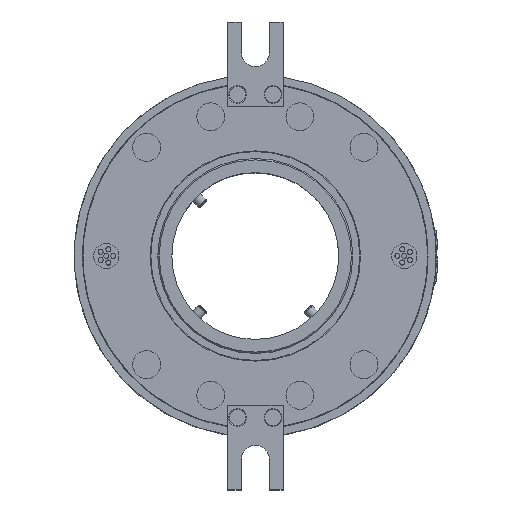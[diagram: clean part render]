
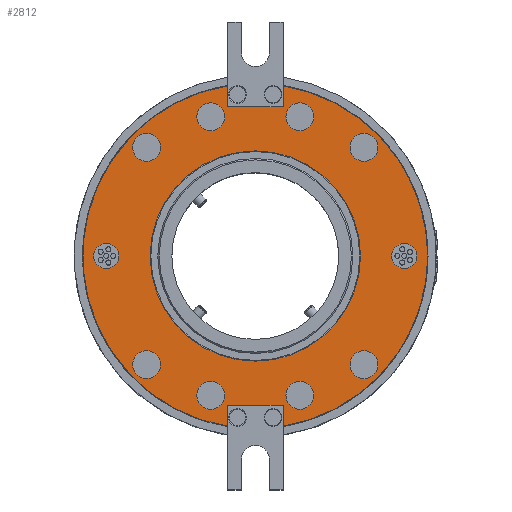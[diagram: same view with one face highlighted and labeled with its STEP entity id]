
A CAD part, top view. The second image highlights one B-rep face of the part: STEP entity #2812.
In plain terms, the highlighted planar face has unit normal (0, 0, 1).
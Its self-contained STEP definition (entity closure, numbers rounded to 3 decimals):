
#1454=LINE('',#19542,#1736);
#1455=LINE('',#19545,#1737);
#1456=LINE('',#19549,#1738);
#1457=LINE('',#19551,#1739);
#1458=LINE('',#19553,#1740);
#1459=LINE('',#19557,#1741);
#1736=VECTOR('',#17074,1.);
#1737=VECTOR('',#17075,1.);
#1738=VECTOR('',#17078,1.);
#1739=VECTOR('',#17079,1.);
#1740=VECTOR('',#17080,1.);
#1741=VECTOR('',#17083,1.);
#2471=PLANE('',#16321);
#2812=ADVANCED_FACE('',(#6041,#6042,#6043,#6044,#6045,#6046,#6047,#6048,
#6049,#6050,#6051,#6052),#2471,.T.);
#6041=FACE_BOUND('',#6353,.T.);
#6042=FACE_BOUND('',#6354,.T.);
#6043=FACE_BOUND('',#6355,.T.);
#6044=FACE_BOUND('',#6356,.T.);
#6045=FACE_BOUND('',#6357,.T.);
#6046=FACE_BOUND('',#6358,.T.);
#6047=FACE_BOUND('',#6359,.T.);
#6048=FACE_BOUND('',#6360,.T.);
#6049=FACE_BOUND('',#6361,.T.);
#6050=FACE_BOUND('',#6362,.T.);
#6051=FACE_BOUND('',#6363,.T.);
#6052=FACE_BOUND('',#6364,.T.);
#6353=EDGE_LOOP('',(#7474,#7475,#7476,#7477,#7478,#7479,#7480,#7481));
#6354=EDGE_LOOP('',(#7482));
#6355=EDGE_LOOP('',(#7483));
#6356=EDGE_LOOP('',(#7484));
#6357=EDGE_LOOP('',(#7485));
#6358=EDGE_LOOP('',(#7486));
#6359=EDGE_LOOP('',(#7487));
#6360=EDGE_LOOP('',(#7488));
#6361=EDGE_LOOP('',(#7489));
#6362=EDGE_LOOP('',(#7490));
#6363=EDGE_LOOP('',(#7491));
#6364=EDGE_LOOP('',(#7492));
#7474=ORIENTED_EDGE('',*,*,#13754,.T.);
#7475=ORIENTED_EDGE('',*,*,#13755,.T.);
#7476=ORIENTED_EDGE('',*,*,#13756,.F.);
#7477=ORIENTED_EDGE('',*,*,#13757,.T.);
#7478=ORIENTED_EDGE('',*,*,#13758,.T.);
#7479=ORIENTED_EDGE('',*,*,#13759,.T.);
#7480=ORIENTED_EDGE('',*,*,#13760,.F.);
#7481=ORIENTED_EDGE('',*,*,#13761,.T.);
#7482=ORIENTED_EDGE('',*,*,#13762,.T.);
#7483=ORIENTED_EDGE('',*,*,#13763,.T.);
#7484=ORIENTED_EDGE('',*,*,#13764,.T.);
#7485=ORIENTED_EDGE('',*,*,#13765,.T.);
#7486=ORIENTED_EDGE('',*,*,#13766,.T.);
#7487=ORIENTED_EDGE('',*,*,#13767,.T.);
#7488=ORIENTED_EDGE('',*,*,#13768,.T.);
#7489=ORIENTED_EDGE('',*,*,#13769,.T.);
#7490=ORIENTED_EDGE('',*,*,#13770,.T.);
#7491=ORIENTED_EDGE('',*,*,#13771,.T.);
#7492=ORIENTED_EDGE('',*,*,#13753,.T.);
#12152=VERTEX_POINT('',#19540);
#12153=VERTEX_POINT('',#19543);
#12154=VERTEX_POINT('',#19544);
#12155=VERTEX_POINT('',#19546);
#12156=VERTEX_POINT('',#19548);
#12157=VERTEX_POINT('',#19550);
#12158=VERTEX_POINT('',#19552);
#12159=VERTEX_POINT('',#19554);
#12160=VERTEX_POINT('',#19556);
#12161=VERTEX_POINT('',#19559);
#12162=VERTEX_POINT('',#19561);
#12163=VERTEX_POINT('',#19563);
#12164=VERTEX_POINT('',#19565);
#12165=VERTEX_POINT('',#19567);
#12166=VERTEX_POINT('',#19569);
#12167=VERTEX_POINT('',#19571);
#12168=VERTEX_POINT('',#19573);
#12169=VERTEX_POINT('',#19575);
#12170=VERTEX_POINT('',#19577);
#13753=EDGE_CURVE('',#12152,#12152,#16089,.T.);
#13754=EDGE_CURVE('',#12153,#12154,#1454,.T.);
#13755=EDGE_CURVE('',#12154,#12155,#1455,.T.);
#13756=EDGE_CURVE('',#12156,#12155,#16090,.T.);
#13757=EDGE_CURVE('',#12156,#12157,#1456,.T.);
#13758=EDGE_CURVE('',#12157,#12158,#1457,.T.);
#13759=EDGE_CURVE('',#12158,#12159,#1458,.T.);
#13760=EDGE_CURVE('',#12160,#12159,#16091,.T.);
#13761=EDGE_CURVE('',#12160,#12153,#1459,.T.);
#13762=EDGE_CURVE('',#12161,#12161,#16092,.T.);
#13763=EDGE_CURVE('',#12162,#12162,#16093,.T.);
#13764=EDGE_CURVE('',#12163,#12163,#16094,.T.);
#13765=EDGE_CURVE('',#12164,#12164,#16095,.T.);
#13766=EDGE_CURVE('',#12165,#12165,#16096,.T.);
#13767=EDGE_CURVE('',#12166,#12166,#16097,.T.);
#13768=EDGE_CURVE('',#12167,#12167,#16098,.T.);
#13769=EDGE_CURVE('',#12168,#12168,#16099,.T.);
#13770=EDGE_CURVE('',#12169,#12169,#16100,.T.);
#13771=EDGE_CURVE('',#12170,#12170,#16101,.T.);
#16089=CIRCLE('',#16307,4.5);
#16090=CIRCLE('',#16309,61.9);
#16091=CIRCLE('',#16310,61.9);
#16092=CIRCLE('',#16311,37.75);
#16093=CIRCLE('',#16312,5.);
#16094=CIRCLE('',#16313,5.);
#16095=CIRCLE('',#16314,5.);
#16096=CIRCLE('',#16315,5.);
#16097=CIRCLE('',#16316,4.5);
#16098=CIRCLE('',#16317,5.);
#16099=CIRCLE('',#16318,5.);
#16100=CIRCLE('',#16319,5.);
#16101=CIRCLE('',#16320,5.);
#16307=AXIS2_PLACEMENT_3D('',#19539,#17070,#17071);
#16309=AXIS2_PLACEMENT_3D('',#19547,#17076,#17077);
#16310=AXIS2_PLACEMENT_3D('',#19555,#17081,#17082);
#16311=AXIS2_PLACEMENT_3D('',#19558,#17084,#17085);
#16312=AXIS2_PLACEMENT_3D('',#19560,#17086,#17087);
#16313=AXIS2_PLACEMENT_3D('',#19562,#17088,#17089);
#16314=AXIS2_PLACEMENT_3D('',#19564,#17090,#17091);
#16315=AXIS2_PLACEMENT_3D('',#19566,#17092,#17093);
#16316=AXIS2_PLACEMENT_3D('',#19568,#17094,#17095);
#16317=AXIS2_PLACEMENT_3D('',#19570,#17096,#17097);
#16318=AXIS2_PLACEMENT_3D('',#19572,#17098,#17099);
#16319=AXIS2_PLACEMENT_3D('',#19574,#17100,#17101);
#16320=AXIS2_PLACEMENT_3D('',#19576,#17102,#17103);
#16321=AXIS2_PLACEMENT_3D('',#19578,#17104,#17105);
#17070=DIRECTION('',(0.,0.,-1.));
#17071=DIRECTION('',(-1.,0.,0.));
#17074=DIRECTION('',(-1.,0.,0.));
#17075=DIRECTION('',(0.,1.,0.));
#17076=DIRECTION('',(0.,0.,-1.));
#17077=DIRECTION('',(1.,0.,0.));
#17078=DIRECTION('',(0.,1.,0.));
#17079=DIRECTION('',(1.,0.,0.));
#17080=DIRECTION('',(0.,-1.,0.));
#17081=DIRECTION('',(0.,0.,-1.));
#17082=DIRECTION('',(1.,0.,0.));
#17083=DIRECTION('',(0.,-1.,0.));
#17084=DIRECTION('',(0.,0.,-1.));
#17085=DIRECTION('',(1.,0.,0.));
#17086=DIRECTION('',(0.,0.,-1.));
#17087=DIRECTION('',(1.,0.,0.));
#17088=DIRECTION('',(0.,0.,-1.));
#17089=DIRECTION('',(1.,0.,0.));
#17090=DIRECTION('',(0.,0.,-1.));
#17091=DIRECTION('',(1.,0.,0.));
#17092=DIRECTION('',(0.,0.,-1.));
#17093=DIRECTION('',(1.,0.,0.));
#17094=DIRECTION('',(0.,0.,-1.));
#17095=DIRECTION('',(1.,0.,0.));
#17096=DIRECTION('',(0.,0.,-1.));
#17097=DIRECTION('',(1.,0.,0.));
#17098=DIRECTION('',(0.,0.,-1.));
#17099=DIRECTION('',(1.,0.,0.));
#17100=DIRECTION('',(0.,0.,-1.));
#17101=DIRECTION('',(1.,0.,0.));
#17102=DIRECTION('',(0.,0.,-1.));
#17103=DIRECTION('',(1.,0.,0.));
#17104=DIRECTION('',(0.,0.,1.));
#17105=DIRECTION('',(1.,0.,0.));
#19539=CARTESIAN_POINT('',(-53.5,0.,84.4));
#19540=CARTESIAN_POINT('',(-58.,0.,84.4));
#19542=CARTESIAN_POINT('',(10.,53.5,84.4));
#19543=CARTESIAN_POINT('',(10.,53.5,84.4));
#19544=CARTESIAN_POINT('',(-10.,53.5,84.4));
#19545=CARTESIAN_POINT('',(-10.,53.5,84.4));
#19546=CARTESIAN_POINT('',(-10.,61.087,84.4));
#19547=CARTESIAN_POINT('',(0.,0.,
84.4));
#19548=CARTESIAN_POINT('',(-10.,-61.087,84.4));
#19549=CARTESIAN_POINT('',(-10.,-84.,84.4));
#19550=CARTESIAN_POINT('',(-10.,-53.5,84.4));
#19551=CARTESIAN_POINT('',(-10.,-53.5,84.4));
#19552=CARTESIAN_POINT('',(10.,-53.5,84.4));
#19553=CARTESIAN_POINT('',(10.,-53.5,84.4));
#19554=CARTESIAN_POINT('',(10.,-61.087,84.4));
#19555=CARTESIAN_POINT('',(0.,0.,
84.4));
#19556=CARTESIAN_POINT('',(10.,61.087,84.4));
#19557=CARTESIAN_POINT('',(10.,84.,84.4));
#19558=CARTESIAN_POINT('',(0.,0.,84.4));
#19559=CARTESIAN_POINT('',(37.75,0.,84.4));
#19560=CARTESIAN_POINT('',(-39.,-39.,84.4));
#19561=CARTESIAN_POINT('',(-34.,-39.,84.4));
#19562=CARTESIAN_POINT('',(-16.,-50.,84.4));
#19563=CARTESIAN_POINT('',(-11.,-50.,84.4));
#19564=CARTESIAN_POINT('',(16.,-50.,84.4));
#19565=CARTESIAN_POINT('',(21.,-50.,84.4));
#19566=CARTESIAN_POINT('',(39.,-39.,84.4));
#19567=CARTESIAN_POINT('',(44.,-39.,84.4));
#19568=CARTESIAN_POINT('',(53.5,0.,84.4));
#19569=CARTESIAN_POINT('',(58.,0.,84.4));
#19570=CARTESIAN_POINT('',(39.,39.,84.4));
#19571=CARTESIAN_POINT('',(44.,39.,84.4));
#19572=CARTESIAN_POINT('',(16.,50.,84.4));
#19573=CARTESIAN_POINT('',(21.,50.,84.4));
#19574=CARTESIAN_POINT('',(-16.,50.,84.4));
#19575=CARTESIAN_POINT('',(-11.,50.,84.4));
#19576=CARTESIAN_POINT('',(-39.,39.,84.4));
#19577=CARTESIAN_POINT('',(-34.,39.,84.4));
#19578=CARTESIAN_POINT('',(0.,0.,
84.4));
